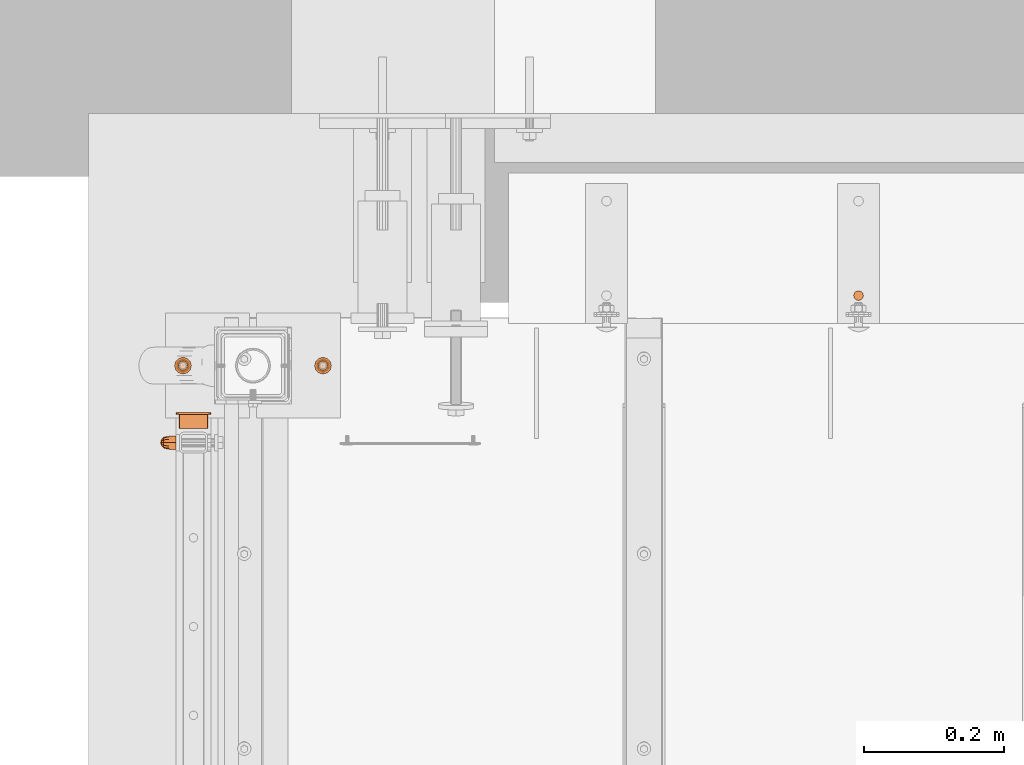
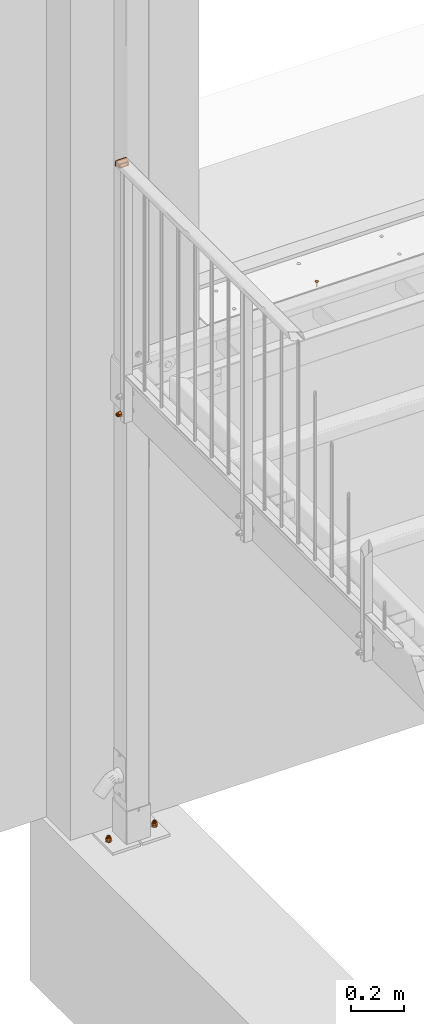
# One storey, part 107 of 116: 7 proxies.
"""IFC2X3 building model written with IfcOpenShell, lengths in millimetres."""

from ifc_helpers import new_model, entity, si_unit, converted_unit, origin_with_axes, place, context, project, spatial, faceted_brep, material, element, save


model = new_model("IFC2X3")

# Units and contexts
model_context = context("Model", 3, precision=1e-09, world=origin_with_axes())
ifc_project = project(units=[si_unit("LENGTHUNIT", "METRE", prefix="MILLI"), si_unit("AREAUNIT", "SQUARE_METRE"), si_unit("VOLUMEUNIT", "CUBIC_METRE"), converted_unit("PLANEANGLEUNIT", "DEGREE", entity("IfcPlaneAngleMeasure", 0.01745329), si_unit("PLANEANGLEUNIT", "RADIAN"), dimensions=[0, 0, 0, 0, 0, 0, 0])], contexts=[model_context])

# Site, building, storey
site_placement = place(None, origin_with_axes())
site = spatial("IfcSite", under=ifc_project, at=site_placement, Name="Site", CompositionType="ELEMENT")
building_placement = place(site_placement, origin_with_axes())
building = spatial("IfcBuilding", under=site, at=building_placement, Name="Struktur 1", CompositionType="ELEMENT")
storey_placement = place(building_placement, origin_with_axes())
storey = spatial("IfcBuildingStorey", under=building, at=storey_placement, Name="Default Storey", CompositionType="ELEMENT", Elevation=0.0)

# Proxies
ifc_material = material(Name="Kein")
proxy_1_placement = place(None, origin_with_axes())
element("IfcBuildingElementProxy", 1, at=proxy_1_placement, inside=storey, material=ifc_material, ObjectType="-", context=model_context, shape_type="Brep", body=[
    faceted_brep([(56202.050634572, 12055.358883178, -5.0), (56202.050634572, 12055.358883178, -4.0), (56198.550634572, 12056.296705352, -4.0), (56198.550634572, 12056.296705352, -5.0), (56205.550634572, 12056.296705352, -5.0), (56205.550634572, 12056.296705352, -4.0), (56208.112812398, 12065.858883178, -4.0), (56205.550634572, 12068.421061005, -4.0), (56202.050634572, 12069.358883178, -4.0), (56198.550634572, 12068.421061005, -4.0), (56195.988456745, 12065.858883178, -4.0), (56195.050634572, 12062.358883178, -4.0), (56195.988456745, 12058.858883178, -4.0), (56208.112812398, 12058.858883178, -4.0), (56209.050634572, 12062.358883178, -4.0), (56195.988456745, 12065.858883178, -5.0), (56198.550634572, 12068.421061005, -5.0), (56202.050634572, 12069.358883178, -5.0), (56205.550634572, 12068.421061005, -5.0), (56208.112812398, 12065.858883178, -5.0), (56209.050634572, 12062.358883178, -5.0), (56208.112812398, 12058.858883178, -5.0), (56195.988456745, 12058.858883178, -5.0), (56195.050634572, 12062.358883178, -5.0)], [[[0, 1, 2, 3]], [[1, 0, 4, 5]], [[6, 7, 8, 9, 10, 11, 12, 2, 1, 5, 13, 14]], [[15, 16, 17, 18, 19, 20, 21, 4, 0, 3, 22, 23]], [[3, 2, 12, 22]], [[5, 4, 21, 13]], [[11, 23, 22, 12]], [[10, 15, 23, 11]], [[13, 21, 20, 14]], [[16, 9, 8, 17]], [[15, 10, 9, 16]], [[17, 8, 7, 18]], [[14, 20, 19, 6]], [[18, 7, 6, 19]]]),
    faceted_brep([(56202.050634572, 12059.858883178, -30.0), (56202.050634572, 12059.858883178, -5.0), (56200.800634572, 12060.193819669, -5.0), (56200.800634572, 12060.193819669, -30.0), (56203.300634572, 12060.193819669, -30.0), (56203.300634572, 12060.193819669, -5.0), (56204.215698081, 12063.608883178, -5.0), (56203.300634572, 12064.523946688, -5.0), (56202.050634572, 12064.858883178, -5.0), (56200.800634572, 12064.523946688, -5.0), (56199.885571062, 12063.608883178, -5.0), (56199.550634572, 12062.358883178, -5.0), (56199.885571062, 12061.108883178, -5.0), (56204.215698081, 12061.108883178, -5.0), (56204.550634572, 12062.358883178, -5.0), (56199.885571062, 12063.608883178, -30.0), (56200.800634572, 12064.523946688, -30.0), (56202.050634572, 12064.858883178, -30.0), (56203.300634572, 12064.523946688, -30.0), (56204.215698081, 12063.608883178, -30.0), (56204.550634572, 12062.358883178, -30.0), (56204.215698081, 12061.108883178, -30.0), (56199.885571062, 12061.108883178, -30.0), (56199.550634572, 12062.358883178, -30.0)], [[[0, 1, 2, 3]], [[1, 0, 4, 5]], [[6, 7, 8, 9, 10, 11, 12, 2, 1, 5, 13, 14]], [[15, 16, 17, 18, 19, 20, 21, 4, 0, 3, 22, 23]], [[3, 2, 12, 22]], [[5, 4, 21, 13]], [[11, 23, 22, 12]], [[10, 15, 23, 11]], [[13, 21, 20, 14]], [[16, 9, 8, 17]], [[15, 10, 9, 16]], [[17, 8, 7, 18]], [[14, 20, 19, 6]], [[18, 7, 6, 19]]]),
])
proxy_2_placement = place(None, origin_with_axes())
element("IfcBuildingElementProxy", 2, at=proxy_2_placement, inside=storey, material=ifc_material, ObjectType="-", context=model_context, shape_type="Brep", body=[
    faceted_brep([(55227.049134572, 11858.358883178, -145.0), (55217.049134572, 11858.358883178, -145.0), (55217.049134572, 11857.555035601, -148.0), (55227.049134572, 11857.555035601, -148.0), (55217.049134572, 11855.358883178, -150.196152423), (55227.049134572, 11855.358883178, -150.196152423), (55227.049134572, 11857.555035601, -142.0), (55217.049134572, 11857.555035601, -142.0), (55227.049134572, 11861.838752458, -139.526794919), (55227.049134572, 11852.358883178, -134.053589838), (55227.049134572, 11842.879013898, -139.526794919), (55227.049134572, 11842.879013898, -150.473205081), (55227.049134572, 11852.358883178, -155.946410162), (55227.049134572, 11861.838752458, -150.473205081), (55227.049134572, 11855.358883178, -139.803847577), (55227.049134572, 11852.358883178, -151.0), (55227.049134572, 11849.358883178, -150.196152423), (55227.049134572, 11847.162730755, -148.0), (55227.049134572, 11846.358883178, -145.0), (55227.049134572, 11847.162730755, -142.0), (55227.049134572, 11849.358883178, -139.803847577), (55227.049134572, 11852.358883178, -139.0), (55217.049134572, 11852.358883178, -134.053589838), (55217.049134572, 11861.838752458, -139.526794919), (55217.049134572, 11861.838752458, -150.473205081), (55217.049134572, 11852.358883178, -155.946410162), (55217.049134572, 11842.879013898, -150.473205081), (55217.049134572, 11842.879013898, -139.526794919), (55217.049134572, 11855.358883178, -139.803847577), (55217.049134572, 11852.358883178, -139.0), (55217.049134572, 11849.358883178, -139.803847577), (55217.049134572, 11847.162730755, -142.0), (55217.049134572, 11846.358883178, -145.0), (55217.049134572, 11847.162730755, -148.0), (55217.049134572, 11849.358883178, -150.196152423), (55217.049134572, 11852.358883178, -151.0)], [[[0, 1, 2, 3]], [[3, 2, 4, 5]], [[1, 0, 6, 7]], [[8, 9, 10, 11, 12, 13], [14, 6, 0, 3, 5, 15, 16, 17, 18, 19, 20, 21]], [[22, 23, 24, 25, 26, 27], [1, 7, 28, 29, 30, 31, 32, 33, 34, 35, 4, 2]], [[7, 6, 14, 28]], [[24, 23, 8, 13]], [[5, 4, 35, 15]], [[13, 12, 25, 24]], [[28, 14, 21, 29]], [[23, 22, 9, 8]], [[15, 35, 34, 16]], [[12, 11, 26, 25]], [[29, 21, 20, 30]], [[22, 27, 10, 9]], [[16, 34, 33, 17]], [[27, 26, 11, 10]], [[30, 20, 19, 31]], [[17, 33, 32, 18]], [[31, 19, 18, 32]]]),
    faceted_brep([(55217.049134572, 11852.358883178, -136.0), (55214.049134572, 11852.358883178, -136.0), (55214.049134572, 11847.858883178, -137.205771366), (55217.049134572, 11847.858883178, -137.205771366), (55217.049134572, 11856.858883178, -137.205771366), (55214.049134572, 11856.858883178, -137.205771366), (55214.049134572, 11860.153111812, -149.5), (55214.049134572, 11856.858883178, -152.794228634), (55214.049134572, 11852.358883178, -154.0), (55214.049134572, 11847.858883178, -152.794228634), (55214.049134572, 11844.564654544, -149.5), (55214.049134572, 11843.358883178, -145.0), (55214.049134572, 11844.564654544, -140.5), (55214.049134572, 11860.153111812, -140.5), (55214.049134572, 11861.358883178, -145.0), (55217.049134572, 11844.564654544, -149.5), (55217.049134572, 11847.858883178, -152.794228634), (55217.049134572, 11852.358883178, -154.0), (55217.049134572, 11856.858883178, -152.794228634), (55217.049134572, 11860.153111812, -149.5), (55217.049134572, 11861.358883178, -145.0), (55217.049134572, 11860.153111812, -140.5), (55217.049134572, 11844.564654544, -140.5), (55217.049134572, 11843.358883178, -145.0)], [[[0, 1, 2, 3]], [[1, 0, 4, 5]], [[6, 7, 8, 9, 10, 11, 12, 2, 1, 5, 13, 14]], [[15, 16, 17, 18, 19, 20, 21, 4, 0, 3, 22, 23]], [[3, 2, 12, 22]], [[5, 4, 21, 13]], [[22, 12, 11, 23]], [[13, 21, 20, 14]], [[7, 18, 17, 8]], [[19, 6, 14, 20]], [[18, 7, 6, 19]], [[23, 11, 10, 15]], [[8, 17, 16, 9]], [[15, 10, 9, 16]]]),
    faceted_brep([(55214.049134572, 11860.153111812, -140.5), (55209.549134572, 11859.108883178, -141.102885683), (55209.549134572, 11856.255997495, -138.25), (55214.049134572, 11856.858883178, -137.205771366), (55214.049134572, 11844.564654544, -149.5), (55214.049134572, 11847.858883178, -152.794228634), (55214.049134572, 11852.358883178, -154.0), (55214.049134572, 11856.858883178, -152.794228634), (55214.049134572, 11860.153111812, -149.5), (55214.049134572, 11861.358883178, -145.0), (55214.049134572, 11852.358883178, -136.0), (55214.049134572, 11847.858883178, -137.205771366), (55214.049134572, 11844.564654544, -140.5), (55214.049134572, 11843.358883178, -145.0), (55209.549134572, 11852.358883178, -137.205771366), (55209.549134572, 11860.153111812, -145.0), (55206.254905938, 11856.858883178, -145.0), (55206.254905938, 11856.255997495, -142.75), (55209.549134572, 11848.461768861, -138.25), (55206.254905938, 11854.608883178, -141.102885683), (55209.549134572, 11859.108883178, -148.897114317), (55206.254905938, 11856.255997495, -147.25), (55206.254905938, 11852.358883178, -140.5), (55205.049134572, 11852.358883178, -145.0), (55209.549134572, 11856.255997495, -151.75), (55206.254905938, 11854.608883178, -148.897114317), (55209.549134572, 11852.358883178, -152.794228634), (55209.549134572, 11845.608883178, -141.102885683), (55206.254905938, 11850.108883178, -141.102885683), (55206.254905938, 11852.358883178, -149.5), (55209.549134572, 11848.461768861, -151.75), (55206.254905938, 11850.108883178, -148.897114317), (55209.549134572, 11844.564654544, -145.0), (55206.254905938, 11848.461768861, -142.75), (55209.549134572, 11845.608883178, -148.897114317), (55206.254905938, 11848.461768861, -147.25), (55206.254905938, 11847.858883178, -145.0)], [[[0, 1, 2, 3]], [[4, 5, 6, 7, 8, 9, 0, 3, 10, 11, 12, 13]], [[3, 2, 14, 10]], [[15, 16, 17, 1]], [[1, 0, 9, 15]], [[10, 14, 18, 11]], [[1, 17, 19, 2]], [[16, 15, 20, 21]], [[2, 19, 22, 14]], [[23, 17, 16]], [[24, 25, 21, 20]], [[23, 16, 21]], [[24, 7, 6, 26]], [[20, 8, 7, 24]], [[15, 9, 8, 20]], [[11, 18, 27, 12]], [[14, 22, 28, 18]], [[23, 19, 17]], [[26, 29, 25, 24]], [[23, 21, 25]], [[23, 22, 19]], [[26, 6, 5, 30]], [[29, 26, 30, 31]], [[23, 25, 29]], [[12, 27, 32, 13]], [[18, 28, 33, 27]], [[23, 28, 22]], [[23, 29, 31]], [[23, 33, 28]], [[30, 5, 4, 34]], [[31, 30, 34, 35]], [[23, 31, 35]], [[13, 32, 34, 4]], [[27, 33, 36, 32]], [[23, 36, 33]], [[23, 35, 36]], [[35, 34, 32, 36]]]),
])
proxy_3_placement = place(None, origin_with_axes())
element("IfcBuildingElementProxy", 3, at=proxy_3_placement, inside=storey, material=ifc_material, ObjectType="-", context=model_context, shape_type="Brep", body=[
    faceted_brep([(55431.049134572, 11962.358883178, -2180.0), (55431.049134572, 11962.358883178, -2170.0), (55431.852982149, 11959.358883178, -2170.0), (55431.852982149, 11959.358883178, -2180.0), (55434.049134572, 11957.162730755, -2170.0), (55434.049134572, 11957.162730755, -2180.0), (55431.852982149, 11965.358883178, -2180.0), (55431.852982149, 11965.358883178, -2170.0), (55427.569265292, 11967.832088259, -2180.0), (55437.049134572, 11973.30529334, -2180.0), (55446.529003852, 11967.832088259, -2180.0), (55446.529003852, 11956.885678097, -2180.0), (55437.049134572, 11951.412473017, -2180.0), (55427.569265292, 11956.885678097, -2180.0), (55434.049134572, 11967.555035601, -2180.0), (55437.049134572, 11956.358883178, -2180.0), (55440.049134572, 11957.162730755, -2180.0), (55442.245286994, 11959.358883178, -2180.0), (55443.049134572, 11962.358883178, -2180.0), (55442.245286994, 11965.358883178, -2180.0), (55440.049134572, 11967.555035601, -2180.0), (55437.049134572, 11968.358883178, -2180.0), (55437.049134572, 11973.30529334, -2170.0), (55427.569265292, 11967.832088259, -2170.0), (55427.569265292, 11956.885678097, -2170.0), (55437.049134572, 11951.412473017, -2170.0), (55446.529003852, 11956.885678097, -2170.0), (55446.529003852, 11967.832088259, -2170.0), (55434.049134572, 11967.555035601, -2170.0), (55437.049134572, 11968.358883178, -2170.0), (55440.049134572, 11967.555035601, -2170.0), (55442.245286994, 11965.358883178, -2170.0), (55443.049134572, 11962.358883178, -2170.0), (55442.245286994, 11959.358883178, -2170.0), (55440.049134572, 11957.162730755, -2170.0), (55437.049134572, 11956.358883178, -2170.0)], [[[0, 1, 2, 3]], [[3, 2, 4, 5]], [[1, 0, 6, 7]], [[8, 9, 10, 11, 12, 13], [14, 6, 0, 3, 5, 15, 16, 17, 18, 19, 20, 21]], [[22, 23, 24, 25, 26, 27], [1, 7, 28, 29, 30, 31, 32, 33, 34, 35, 4, 2]], [[7, 6, 14, 28]], [[24, 23, 8, 13]], [[5, 4, 35, 15]], [[13, 12, 25, 24]], [[28, 14, 21, 29]], [[23, 22, 9, 8]], [[15, 35, 34, 16]], [[12, 11, 26, 25]], [[29, 21, 20, 30]], [[22, 27, 10, 9]], [[16, 34, 33, 17]], [[27, 26, 11, 10]], [[30, 20, 19, 31]], [[17, 33, 32, 18]], [[31, 19, 18, 32]]]),
    faceted_brep([(55437.049134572, 11971.358883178, -2170.0), (55437.049134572, 11971.358883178, -2167.0), (55441.549134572, 11970.153111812, -2167.0), (55441.549134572, 11970.153111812, -2170.0), (55432.549134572, 11970.153111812, -2170.0), (55432.549134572, 11970.153111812, -2167.0), (55429.254905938, 11957.858883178, -2167.0), (55432.549134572, 11954.564654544, -2167.0), (55437.049134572, 11953.358883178, -2167.0), (55441.549134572, 11954.564654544, -2167.0), (55444.843363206, 11957.858883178, -2167.0), (55446.049134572, 11962.358883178, -2167.0), (55444.843363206, 11966.858883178, -2167.0), (55429.254905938, 11966.858883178, -2167.0), (55428.049134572, 11962.358883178, -2167.0), (55444.843363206, 11957.858883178, -2170.0), (55441.549134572, 11954.564654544, -2170.0), (55437.049134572, 11953.358883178, -2170.0), (55432.549134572, 11954.564654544, -2170.0), (55429.254905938, 11957.858883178, -2170.0), (55428.049134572, 11962.358883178, -2170.0), (55429.254905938, 11966.858883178, -2170.0), (55444.843363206, 11966.858883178, -2170.0), (55446.049134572, 11962.358883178, -2170.0)], [[[0, 1, 2, 3]], [[1, 0, 4, 5]], [[6, 7, 8, 9, 10, 11, 12, 2, 1, 5, 13, 14]], [[15, 16, 17, 18, 19, 20, 21, 4, 0, 3, 22, 23]], [[3, 2, 12, 22]], [[5, 4, 21, 13]], [[22, 12, 11, 23]], [[13, 21, 20, 14]], [[7, 18, 17, 8]], [[19, 6, 14, 20]], [[18, 7, 6, 19]], [[23, 11, 10, 15]], [[8, 17, 16, 9]], [[15, 10, 9, 16]]]),
    faceted_brep([(55429.254905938, 11966.858883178, -2167.0), (55430.299134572, 11966.255997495, -2162.5), (55433.152020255, 11969.108883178, -2162.5), (55432.549134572, 11970.153111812, -2167.0), (55444.843363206, 11957.858883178, -2167.0), (55441.549134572, 11954.564654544, -2167.0), (55437.049134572, 11953.358883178, -2167.0), (55432.549134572, 11954.564654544, -2167.0), (55429.254905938, 11957.858883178, -2167.0), (55428.049134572, 11962.358883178, -2167.0), (55437.049134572, 11971.358883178, -2167.0), (55441.549134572, 11970.153111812, -2167.0), (55444.843363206, 11966.858883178, -2167.0), (55446.049134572, 11962.358883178, -2167.0), (55437.049134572, 11970.153111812, -2162.5), (55429.254905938, 11962.358883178, -2162.5), (55432.549134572, 11962.358883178, -2159.205771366), (55433.152020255, 11964.608883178, -2159.205771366), (55440.946248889, 11969.108883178, -2162.5), (55434.799134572, 11966.255997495, -2159.205771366), (55430.299134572, 11958.461768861, -2162.5), (55433.152020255, 11960.108883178, -2159.205771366), (55437.049134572, 11966.858883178, -2159.205771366), (55437.049134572, 11962.358883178, -2158.0), (55433.152020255, 11955.608883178, -2162.5), (55434.799134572, 11958.461768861, -2159.205771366), (55437.049134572, 11954.564654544, -2162.5), (55443.799134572, 11966.255997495, -2162.5), (55439.299134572, 11966.255997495, -2159.205771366), (55437.049134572, 11957.858883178, -2159.205771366), (55440.946248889, 11955.608883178, -2162.5), (55439.299134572, 11958.461768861, -2159.205771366), (55444.843363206, 11962.358883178, -2162.5), (55440.946248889, 11964.608883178, -2159.205771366), (55443.799134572, 11958.461768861, -2162.5), (55440.946248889, 11960.108883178, -2159.205771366), (55441.549134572, 11962.358883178, -2159.205771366)], [[[0, 1, 2, 3]], [[4, 5, 6, 7, 8, 9, 0, 3, 10, 11, 12, 13]], [[3, 2, 14, 10]], [[15, 16, 17, 1]], [[1, 0, 9, 15]], [[10, 14, 18, 11]], [[1, 17, 19, 2]], [[16, 15, 20, 21]], [[2, 19, 22, 14]], [[23, 17, 16]], [[24, 25, 21, 20]], [[23, 16, 21]], [[24, 7, 6, 26]], [[20, 8, 7, 24]], [[15, 9, 8, 20]], [[11, 18, 27, 12]], [[14, 22, 28, 18]], [[23, 19, 17]], [[26, 29, 25, 24]], [[23, 21, 25]], [[23, 22, 19]], [[26, 6, 5, 30]], [[29, 26, 30, 31]], [[23, 25, 29]], [[12, 27, 32, 13]], [[18, 28, 33, 27]], [[23, 28, 22]], [[23, 29, 31]], [[23, 33, 28]], [[30, 5, 4, 34]], [[31, 30, 34, 35]], [[23, 31, 35]], [[13, 32, 34, 4]], [[27, 33, 36, 32]], [[23, 36, 33]], [[23, 35, 36]], [[35, 34, 32, 36]]]),
])
proxy_4_placement = place(None, origin_with_axes())
element("IfcBuildingElementProxy", 4, at=proxy_4_placement, inside=storey, material=ifc_material, ObjectType="-", context=model_context, shape_type="Brep", body=[
    faceted_brep([(55447.441439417, 11956.358883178, -2182.5), (55447.441439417, 11956.358883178, -2185.0), (55449.049134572, 11962.358883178, -2185.0), (55449.049134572, 11962.358883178, -2182.5), (55443.049134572, 11951.966578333, -2185.0), (55437.049134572, 11950.358883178, -2185.0), (55431.049134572, 11951.966578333, -2185.0), (55426.656829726, 11956.358883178, -2185.0), (55425.049134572, 11962.358883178, -2185.0), (55426.656829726, 11968.358883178, -2185.0), (55431.049134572, 11972.751188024, -2185.0), (55437.049134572, 11974.358883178, -2185.0), (55443.049134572, 11972.751188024, -2185.0), (55447.441439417, 11968.358883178, -2185.0), (55440.299134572, 11956.729718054, -2185.0), (55442.678299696, 11959.108883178, -2185.0), (55443.549134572, 11962.358883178, -2185.0), (55442.678299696, 11965.608883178, -2185.0), (55440.299134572, 11967.988048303, -2185.0), (55437.049134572, 11968.858883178, -2185.0), (55433.799134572, 11967.988048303, -2185.0), (55431.419969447, 11965.608883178, -2185.0), (55430.549134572, 11962.358883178, -2185.0), (55431.419969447, 11959.108883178, -2185.0), (55433.799134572, 11956.729718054, -2185.0), (55437.049134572, 11955.858883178, -2185.0), (55443.549134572, 11962.358883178, -2182.5), (55442.678299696, 11959.108883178, -2182.5), (55443.049134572, 11951.966578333, -2182.5), (55447.441439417, 11968.358883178, -2182.5), (55443.049134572, 11972.751188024, -2182.5), (55437.049134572, 11974.358883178, -2182.5), (55431.049134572, 11972.751188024, -2182.5), (55426.656829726, 11968.358883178, -2182.5), (55425.049134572, 11962.358883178, -2182.5), (55426.656829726, 11956.358883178, -2182.5), (55431.049134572, 11951.966578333, -2182.5), (55437.049134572, 11950.358883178, -2182.5), (55440.299134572, 11956.729718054, -2182.5), (55437.049134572, 11955.858883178, -2182.5), (55433.799134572, 11956.729718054, -2182.5), (55431.419969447, 11959.108883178, -2182.5), (55430.549134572, 11962.358883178, -2182.5), (55431.419969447, 11965.608883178, -2182.5), (55433.799134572, 11967.988048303, -2182.5), (55437.049134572, 11968.858883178, -2182.5), (55440.299134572, 11967.988048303, -2182.5), (55442.678299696, 11965.608883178, -2182.5)], [[[0, 1, 2, 3]], [[1, 4, 5, 6, 7, 8, 9, 10, 11, 12, 13, 2], [14, 15, 16, 17, 18, 19, 20, 21, 22, 23, 24, 25]], [[26, 16, 15, 27]], [[28, 0, 3, 29, 30, 31, 32, 33, 34, 35, 36, 37], [26, 27, 38, 39, 40, 41, 42, 43, 44, 45, 46, 47]], [[1, 0, 28, 4]], [[16, 26, 47, 17]], [[3, 2, 13, 29]], [[27, 15, 14, 38]], [[4, 28, 37, 5]], [[17, 47, 46, 18]], [[29, 13, 12, 30]], [[38, 14, 25, 39]], [[18, 46, 45, 19]], [[5, 37, 36, 6]], [[39, 25, 24, 40]], [[30, 12, 11, 31]], [[19, 45, 44, 20]], [[6, 36, 35, 7]], [[40, 24, 23, 41]], [[31, 11, 10, 32]], [[20, 44, 43, 21]], [[7, 35, 34, 8]], [[41, 23, 22, 42]], [[32, 10, 9, 33]], [[21, 43, 42, 22]], [[8, 34, 33, 9]]]),
])
proxy_5_placement = place(None, origin_with_axes())
element("IfcBuildingElementProxy", 5, at=proxy_5_placement, inside=storey, material=ifc_material, ObjectType="-", context=model_context, shape_type="Brep", body=[
    faceted_brep([(55231.049134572, 11962.358883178, -2180.0), (55231.049134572, 11962.358883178, -2170.0), (55231.852982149, 11959.358883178, -2170.0), (55231.852982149, 11959.358883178, -2180.0), (55234.049134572, 11957.162730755, -2170.0), (55234.049134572, 11957.162730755, -2180.0), (55231.852982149, 11965.358883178, -2180.0), (55231.852982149, 11965.358883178, -2170.0), (55227.569265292, 11967.832088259, -2180.0), (55237.049134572, 11973.30529334, -2180.0), (55246.529003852, 11967.832088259, -2180.0), (55246.529003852, 11956.885678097, -2180.0), (55237.049134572, 11951.412473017, -2180.0), (55227.569265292, 11956.885678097, -2180.0), (55234.049134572, 11967.555035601, -2180.0), (55237.049134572, 11956.358883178, -2180.0), (55240.049134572, 11957.162730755, -2180.0), (55242.245286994, 11959.358883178, -2180.0), (55243.049134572, 11962.358883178, -2180.0), (55242.245286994, 11965.358883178, -2180.0), (55240.049134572, 11967.555035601, -2180.0), (55237.049134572, 11968.358883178, -2180.0), (55237.049134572, 11973.30529334, -2170.0), (55227.569265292, 11967.832088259, -2170.0), (55227.569265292, 11956.885678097, -2170.0), (55237.049134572, 11951.412473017, -2170.0), (55246.529003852, 11956.885678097, -2170.0), (55246.529003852, 11967.832088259, -2170.0), (55234.049134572, 11967.555035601, -2170.0), (55237.049134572, 11968.358883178, -2170.0), (55240.049134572, 11967.555035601, -2170.0), (55242.245286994, 11965.358883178, -2170.0), (55243.049134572, 11962.358883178, -2170.0), (55242.245286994, 11959.358883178, -2170.0), (55240.049134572, 11957.162730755, -2170.0), (55237.049134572, 11956.358883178, -2170.0)], [[[0, 1, 2, 3]], [[3, 2, 4, 5]], [[1, 0, 6, 7]], [[8, 9, 10, 11, 12, 13], [14, 6, 0, 3, 5, 15, 16, 17, 18, 19, 20, 21]], [[22, 23, 24, 25, 26, 27], [1, 7, 28, 29, 30, 31, 32, 33, 34, 35, 4, 2]], [[7, 6, 14, 28]], [[24, 23, 8, 13]], [[5, 4, 35, 15]], [[13, 12, 25, 24]], [[28, 14, 21, 29]], [[23, 22, 9, 8]], [[15, 35, 34, 16]], [[12, 11, 26, 25]], [[29, 21, 20, 30]], [[22, 27, 10, 9]], [[16, 34, 33, 17]], [[27, 26, 11, 10]], [[30, 20, 19, 31]], [[17, 33, 32, 18]], [[31, 19, 18, 32]]]),
    faceted_brep([(55237.049134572, 11971.358883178, -2170.0), (55237.049134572, 11971.358883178, -2167.0), (55241.549134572, 11970.153111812, -2167.0), (55241.549134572, 11970.153111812, -2170.0), (55232.549134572, 11970.153111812, -2170.0), (55232.549134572, 11970.153111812, -2167.0), (55229.254905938, 11957.858883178, -2167.0), (55232.549134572, 11954.564654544, -2167.0), (55237.049134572, 11953.358883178, -2167.0), (55241.549134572, 11954.564654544, -2167.0), (55244.843363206, 11957.858883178, -2167.0), (55246.049134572, 11962.358883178, -2167.0), (55244.843363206, 11966.858883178, -2167.0), (55229.254905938, 11966.858883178, -2167.0), (55228.049134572, 11962.358883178, -2167.0), (55244.843363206, 11957.858883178, -2170.0), (55241.549134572, 11954.564654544, -2170.0), (55237.049134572, 11953.358883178, -2170.0), (55232.549134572, 11954.564654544, -2170.0), (55229.254905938, 11957.858883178, -2170.0), (55228.049134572, 11962.358883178, -2170.0), (55229.254905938, 11966.858883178, -2170.0), (55244.843363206, 11966.858883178, -2170.0), (55246.049134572, 11962.358883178, -2170.0)], [[[0, 1, 2, 3]], [[1, 0, 4, 5]], [[6, 7, 8, 9, 10, 11, 12, 2, 1, 5, 13, 14]], [[15, 16, 17, 18, 19, 20, 21, 4, 0, 3, 22, 23]], [[3, 2, 12, 22]], [[5, 4, 21, 13]], [[22, 12, 11, 23]], [[13, 21, 20, 14]], [[7, 18, 17, 8]], [[19, 6, 14, 20]], [[18, 7, 6, 19]], [[23, 11, 10, 15]], [[8, 17, 16, 9]], [[15, 10, 9, 16]]]),
    faceted_brep([(55229.254905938, 11966.858883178, -2167.0), (55230.299134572, 11966.255997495, -2162.5), (55233.152020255, 11969.108883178, -2162.5), (55232.549134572, 11970.153111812, -2167.0), (55244.843363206, 11957.858883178, -2167.0), (55241.549134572, 11954.564654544, -2167.0), (55237.049134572, 11953.358883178, -2167.0), (55232.549134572, 11954.564654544, -2167.0), (55229.254905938, 11957.858883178, -2167.0), (55228.049134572, 11962.358883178, -2167.0), (55237.049134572, 11971.358883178, -2167.0), (55241.549134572, 11970.153111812, -2167.0), (55244.843363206, 11966.858883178, -2167.0), (55246.049134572, 11962.358883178, -2167.0), (55237.049134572, 11970.153111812, -2162.5), (55229.254905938, 11962.358883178, -2162.5), (55232.549134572, 11962.358883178, -2159.205771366), (55233.152020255, 11964.608883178, -2159.205771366), (55240.946248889, 11969.108883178, -2162.5), (55234.799134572, 11966.255997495, -2159.205771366), (55230.299134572, 11958.461768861, -2162.5), (55233.152020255, 11960.108883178, -2159.205771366), (55237.049134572, 11966.858883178, -2159.205771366), (55237.049134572, 11962.358883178, -2158.0), (55233.152020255, 11955.608883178, -2162.5), (55234.799134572, 11958.461768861, -2159.205771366), (55237.049134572, 11954.564654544, -2162.5), (55243.799134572, 11966.255997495, -2162.5), (55239.299134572, 11966.255997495, -2159.205771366), (55237.049134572, 11957.858883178, -2159.205771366), (55240.946248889, 11955.608883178, -2162.5), (55239.299134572, 11958.461768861, -2159.205771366), (55244.843363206, 11962.358883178, -2162.5), (55240.946248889, 11964.608883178, -2159.205771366), (55243.799134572, 11958.461768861, -2162.5), (55240.946248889, 11960.108883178, -2159.205771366), (55241.549134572, 11962.358883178, -2159.205771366)], [[[0, 1, 2, 3]], [[4, 5, 6, 7, 8, 9, 0, 3, 10, 11, 12, 13]], [[3, 2, 14, 10]], [[15, 16, 17, 1]], [[1, 0, 9, 15]], [[10, 14, 18, 11]], [[1, 17, 19, 2]], [[16, 15, 20, 21]], [[2, 19, 22, 14]], [[23, 17, 16]], [[24, 25, 21, 20]], [[23, 16, 21]], [[24, 7, 6, 26]], [[20, 8, 7, 24]], [[15, 9, 8, 20]], [[11, 18, 27, 12]], [[14, 22, 28, 18]], [[23, 19, 17]], [[26, 29, 25, 24]], [[23, 21, 25]], [[23, 22, 19]], [[26, 6, 5, 30]], [[29, 26, 30, 31]], [[23, 25, 29]], [[12, 27, 32, 13]], [[18, 28, 33, 27]], [[23, 28, 22]], [[23, 29, 31]], [[23, 33, 28]], [[30, 5, 4, 34]], [[31, 30, 34, 35]], [[23, 31, 35]], [[13, 32, 34, 4]], [[27, 33, 36, 32]], [[23, 36, 33]], [[23, 35, 36]], [[35, 34, 32, 36]]]),
])
proxy_6_placement = place(None, origin_with_axes())
element("IfcBuildingElementProxy", 6, at=proxy_6_placement, inside=storey, material=ifc_material, ObjectType="-", context=model_context, shape_type="Brep", body=[
    faceted_brep([(55247.441439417, 11956.358883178, -2182.5), (55247.441439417, 11956.358883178, -2185.0), (55249.049134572, 11962.358883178, -2185.0), (55249.049134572, 11962.358883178, -2182.5), (55243.049134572, 11951.966578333, -2185.0), (55237.049134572, 11950.358883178, -2185.0), (55231.049134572, 11951.966578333, -2185.0), (55226.656829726, 11956.358883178, -2185.0), (55225.049134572, 11962.358883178, -2185.0), (55226.656829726, 11968.358883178, -2185.0), (55231.049134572, 11972.751188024, -2185.0), (55237.049134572, 11974.358883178, -2185.0), (55243.049134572, 11972.751188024, -2185.0), (55247.441439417, 11968.358883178, -2185.0), (55240.299134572, 11956.729718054, -2185.0), (55242.678299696, 11959.108883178, -2185.0), (55243.549134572, 11962.358883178, -2185.0), (55242.678299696, 11965.608883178, -2185.0), (55240.299134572, 11967.988048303, -2185.0), (55237.049134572, 11968.858883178, -2185.0), (55233.799134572, 11967.988048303, -2185.0), (55231.419969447, 11965.608883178, -2185.0), (55230.549134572, 11962.358883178, -2185.0), (55231.419969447, 11959.108883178, -2185.0), (55233.799134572, 11956.729718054, -2185.0), (55237.049134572, 11955.858883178, -2185.0), (55243.549134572, 11962.358883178, -2182.5), (55242.678299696, 11959.108883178, -2182.5), (55243.049134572, 11951.966578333, -2182.5), (55247.441439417, 11968.358883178, -2182.5), (55243.049134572, 11972.751188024, -2182.5), (55237.049134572, 11974.358883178, -2182.5), (55231.049134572, 11972.751188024, -2182.5), (55226.656829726, 11968.358883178, -2182.5), (55225.049134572, 11962.358883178, -2182.5), (55226.656829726, 11956.358883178, -2182.5), (55231.049134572, 11951.966578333, -2182.5), (55237.049134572, 11950.358883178, -2182.5), (55240.299134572, 11956.729718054, -2182.5), (55237.049134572, 11955.858883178, -2182.5), (55233.799134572, 11956.729718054, -2182.5), (55231.419969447, 11959.108883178, -2182.5), (55230.549134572, 11962.358883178, -2182.5), (55231.419969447, 11965.608883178, -2182.5), (55233.799134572, 11967.988048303, -2182.5), (55237.049134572, 11968.858883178, -2182.5), (55240.299134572, 11967.988048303, -2182.5), (55242.678299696, 11965.608883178, -2182.5)], [[[0, 1, 2, 3]], [[1, 4, 5, 6, 7, 8, 9, 10, 11, 12, 13, 2], [14, 15, 16, 17, 18, 19, 20, 21, 22, 23, 24, 25]], [[26, 16, 15, 27]], [[28, 0, 3, 29, 30, 31, 32, 33, 34, 35, 36, 37], [26, 27, 38, 39, 40, 41, 42, 43, 44, 45, 46, 47]], [[1, 0, 28, 4]], [[16, 26, 47, 17]], [[3, 2, 13, 29]], [[27, 15, 14, 38]], [[4, 28, 37, 5]], [[17, 47, 46, 18]], [[29, 13, 12, 30]], [[38, 14, 25, 39]], [[18, 46, 45, 19]], [[5, 37, 36, 6]], [[39, 25, 24, 40]], [[30, 12, 11, 31]], [[19, 45, 44, 20]], [[6, 36, 35, 7]], [[40, 24, 23, 41]], [[31, 11, 10, 32]], [[20, 44, 43, 21]], [[7, 35, 34, 8]], [[41, 23, 22, 42]], [[32, 10, 9, 33]], [[21, 43, 42, 22]], [[8, 34, 33, 9]]]),
])
proxy_7_placement = place(None, origin_with_axes())
element("IfcBuildingElementProxy", 7, at=proxy_7_placement, inside=storey, material=ifc_material, ObjectType="-", context=model_context, shape_type="Brep", body=[
    faceted_brep([(55231.049134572, 11872.358883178, 971.0), (55231.049134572, 11872.358883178, 989.0), (55231.049134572, 11892.358883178, 989.0), (55231.049134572, 11892.358883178, 971.0), (55231.317083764, 11872.358883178, 990.0), (55231.317083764, 11892.358883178, 990.0), (55232.049134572, 11892.358883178, 990.732050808), (55232.049134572, 11872.358883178, 990.732050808), (55233.049134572, 11872.358883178, 991.0), (55233.049134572, 11892.358883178, 991.0), (55231.317083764, 11892.358883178, 970.0), (55231.317083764, 11872.358883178, 970.0), (55232.049134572, 11892.358883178, 969.267949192), (55232.049134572, 11872.358883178, 969.267949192), (55233.049134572, 11872.358883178, 969.0), (55271.049134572, 11872.358883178, 969.0), (55272.049134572, 11872.358883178, 969.267949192), (55272.781185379, 11872.358883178, 970.0), (55273.049134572, 11872.358883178, 971.0), (55273.049134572, 11872.358883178, 989.0), (55272.781185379, 11872.358883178, 990.0), (55272.049134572, 11872.358883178, 990.732050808), (55271.049134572, 11872.358883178, 991.0), (55235.049134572, 11872.358883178, 987.0), (55269.049134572, 11872.358883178, 987.0), (55269.049134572, 11872.358883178, 973.0), (55235.049134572, 11872.358883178, 973.0), (55271.049134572, 11892.358883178, 991.0), (55272.049134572, 11892.358883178, 990.732050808), (55272.781185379, 11892.358883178, 990.0), (55273.049134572, 11892.358883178, 989.0), (55273.049134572, 11892.358883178, 971.0), (55272.781185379, 11892.358883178, 970.0), (55272.049134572, 11892.358883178, 969.267949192), (55271.049134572, 11892.358883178, 969.0), (55233.049134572, 11892.358883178, 969.0), (55235.049134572, 11892.358883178, 987.0), (55235.049134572, 11892.358883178, 973.0), (55269.049134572, 11892.358883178, 973.0), (55269.049134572, 11892.358883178, 987.0)], [[[0, 1, 2, 3]], [[2, 1, 4, 5]], [[6, 7, 8, 9]], [[5, 4, 7, 6]], [[0, 3, 10, 11]], [[11, 10, 12, 13]], [[7, 4, 1, 0, 11, 13, 14, 15, 16, 17, 18, 19, 20, 21, 22, 8], [23, 24, 25, 26]], [[3, 2, 5, 6, 9, 27, 28, 29, 30, 31, 32, 33, 34, 35, 12, 10], [36, 37, 38, 39]], [[21, 28, 27, 22]], [[8, 22, 27, 9]], [[37, 36, 23, 26]], [[28, 21, 20, 29]], [[13, 12, 35, 14]], [[26, 25, 38, 37]], [[15, 14, 35, 34]], [[15, 34, 33, 16]], [[36, 39, 24, 23]], [[29, 20, 19, 30]], [[16, 33, 32, 17]], [[25, 24, 39, 38]], [[19, 18, 31, 30]], [[17, 32, 31, 18]]]),
    faceted_brep([(55233.049134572, 11895.358883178, 965.0), (55233.049134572, 11892.358883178, 965.0), (55230.049134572, 11892.358883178, 965.803847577), (55230.049134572, 11895.358883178, 965.803847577), (55227.852982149, 11892.358883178, 968.0), (55227.852982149, 11895.358883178, 968.0), (55271.049134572, 11892.358883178, 965.0), (55271.049134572, 11895.358883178, 965.0), (55274.049134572, 11895.358883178, 965.803847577), (55274.049134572, 11892.358883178, 965.803847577), (55276.245286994, 11895.358883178, 968.0), (55276.245286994, 11892.358883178, 968.0), (55227.049134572, 11892.358883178, 971.0), (55277.049134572, 11892.358883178, 971.0), (55277.049134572, 11892.358883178, 989.0), (55276.245286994, 11892.358883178, 992.0), (55274.049134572, 11892.358883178, 994.196152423), (55271.049134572, 11892.358883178, 995.0), (55233.049134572, 11892.358883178, 995.0), (55230.049134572, 11892.358883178, 994.196152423), (55227.852982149, 11892.358883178, 992.0), (55227.049134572, 11892.358883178, 989.0), (55277.049134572, 11895.358883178, 971.0), (55227.049134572, 11895.358883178, 971.0), (55227.049134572, 11895.358883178, 989.0), (55227.852982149, 11895.358883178, 992.0), (55230.049134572, 11895.358883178, 994.196152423), (55233.049134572, 11895.358883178, 995.0), (55271.049134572, 11895.358883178, 995.0), (55274.049134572, 11895.358883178, 994.196152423), (55276.245286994, 11895.358883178, 992.0), (55277.049134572, 11895.358883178, 989.0)], [[[0, 1, 2, 3]], [[3, 2, 4, 5]], [[6, 7, 8, 9]], [[9, 8, 10, 11]], [[12, 4, 2, 1, 6, 9, 11, 13, 14, 15, 16, 17, 18, 19, 20, 21]], [[0, 7, 6, 1]], [[22, 10, 8, 7, 0, 3, 5, 23, 24, 25, 26, 27, 28, 29, 30, 31]], [[5, 4, 12, 23]], [[12, 21, 24, 23]], [[11, 10, 22, 13]], [[19, 26, 25, 20]], [[20, 25, 24, 21]], [[26, 19, 18, 27]], [[22, 31, 14, 13]], [[18, 17, 28, 27]], [[14, 31, 30, 15]], [[16, 29, 28, 17]], [[15, 30, 29, 16]]]),
])

save(model, "model.ifc")
